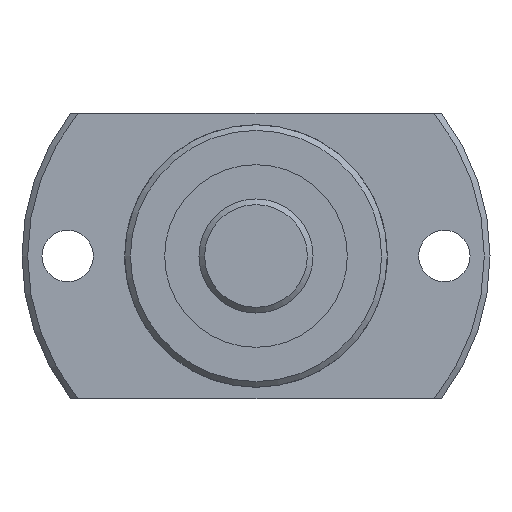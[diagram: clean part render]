
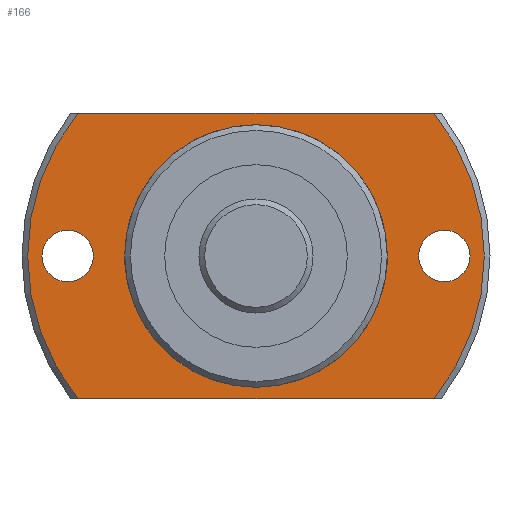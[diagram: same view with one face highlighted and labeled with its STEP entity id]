
A CAD part, left-side view. The second image highlights one B-rep face of the part: STEP entity #166.
In plain terms, the highlighted planar face has unit normal (-1, 0, 0).
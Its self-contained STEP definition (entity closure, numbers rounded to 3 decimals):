
#166 = ADVANCED_FACE( '', ( #365, #366, #367, #368 ), #369, .F. );
#365 = FACE_OUTER_BOUND( '', #629, .T. );
#366 = FACE_BOUND( '', #630, .T. );
#367 = FACE_BOUND( '', #631, .T. );
#368 = FACE_BOUND( '', #632, .T. );
#369 = PLANE( '', #633 );
#629 = EDGE_LOOP( '', ( #957, #958, #959, #960 ) );
#630 = EDGE_LOOP( '', ( #961 ) );
#631 = EDGE_LOOP( '', ( #962 ) );
#632 = EDGE_LOOP( '', ( #963 ) );
#633 = AXIS2_PLACEMENT_3D( '', #964, #965, #966 );
#957 = ORIENTED_EDGE( '', *, *, #1490, .F. );
#958 = ORIENTED_EDGE( '', *, *, #1491, .T. );
#959 = ORIENTED_EDGE( '', *, *, #1457, .F. );
#960 = ORIENTED_EDGE( '', *, *, #1492, .T. );
#961 = ORIENTED_EDGE( '', *, *, #1493, .T. );
#962 = ORIENTED_EDGE( '', *, *, #1494, .T. );
#963 = ORIENTED_EDGE( '', *, *, #1477, .T. );
#964 = CARTESIAN_POINT( '', ( 19., 11.3, 0. ) );
#965 = DIRECTION( '', ( 1., 0., 0. ) );
#966 = DIRECTION( '', ( 0., 0., -1. ) );
#1457 = EDGE_CURVE( '', #1709, #1710, #1711, .T. );
#1477 = EDGE_CURVE( '', #1742, #1742, #1743, .T. );
#1490 = EDGE_CURVE( '', #1764, #1765, #1766, .T. );
#1491 = EDGE_CURVE( '', #1764, #1710, #1767, .T. );
#1492 = EDGE_CURVE( '', #1709, #1765, #1768, .T. );
#1493 = EDGE_CURVE( '', #1769, #1769, #1770, .T. );
#1494 = EDGE_CURVE( '', #1771, #1771, #1772, .T. );
#1709 = VERTEX_POINT( '', #2064 );
#1710 = VERTEX_POINT( '', #2065 );
#1711 = CIRCLE( '', #2066, 20. );
#1742 = VERTEX_POINT( '', #2109 );
#1743 = CIRCLE( '', #2110, 11.3 );
#1764 = VERTEX_POINT( '', #2143 );
#1765 = VERTEX_POINT( '', #2144 );
#1766 = CIRCLE( '', #2145, 20. );
#1767 = LINE( '', #2146, #2147 );
#1768 = LINE( '', #2148, #2149 );
#1769 = VERTEX_POINT( '', #2150 );
#1770 = CIRCLE( '', #2151, 2.25 );
#1771 = VERTEX_POINT( '', #2152 );
#1772 = CIRCLE( '', #2153, 2.25 );
#2064 = CARTESIAN_POINT( '', ( 19., -15.612, 12.5 ) );
#2065 = CARTESIAN_POINT( '', ( 19., -15.612, -12.5 ) );
#2066 = AXIS2_PLACEMENT_3D( '', #2483, #2484, #2485 );
#2109 = CARTESIAN_POINT( '', ( 19., 0., -11.3 ) );
#2110 = AXIS2_PLACEMENT_3D( '', #2510, #2511, #2512 );
#2143 = CARTESIAN_POINT( '', ( 19., 15.612, -12.5 ) );
#2144 = CARTESIAN_POINT( '', ( 19., 15.612, 12.5 ) );
#2145 = AXIS2_PLACEMENT_3D( '', #2525, #2526, #2527 );
#2146 = CARTESIAN_POINT( '', ( 19., 11.3, -12.5 ) );
#2147 = VECTOR( '', #2528, 1000. );
#2148 = CARTESIAN_POINT( '', ( 19., 11.3, 12.5 ) );
#2149 = VECTOR( '', #2529, 1000. );
#2150 = CARTESIAN_POINT( '', ( 19., 16.5, -2.25 ) );
#2151 = AXIS2_PLACEMENT_3D( '', #2530, #2531, #2532 );
#2152 = CARTESIAN_POINT( '', ( 19., -16.5, -2.25 ) );
#2153 = AXIS2_PLACEMENT_3D( '', #2533, #2534, #2535 );
#2483 = CARTESIAN_POINT( '', ( 19., 0., 0. ) );
#2484 = DIRECTION( '', ( 1., 0., 0. ) );
#2485 = DIRECTION( '', ( 0., 0., -1. ) );
#2510 = CARTESIAN_POINT( '', ( 19., 0., 0. ) );
#2511 = DIRECTION( '', ( 1., 0., 0. ) );
#2512 = DIRECTION( '', ( 0., 0., -1. ) );
#2525 = CARTESIAN_POINT( '', ( 19., 0., 0. ) );
#2526 = DIRECTION( '', ( 1., 0., 0. ) );
#2527 = DIRECTION( '', ( 0., 0., -1. ) );
#2528 = DIRECTION( '', ( 0., -1., 0. ) );
#2529 = DIRECTION( '', ( 0., 1., 0. ) );
#2530 = CARTESIAN_POINT( '', ( 19., 16.5, 0. ) );
#2531 = DIRECTION( '', ( 1., 0., 0. ) );
#2532 = DIRECTION( '', ( 0., 0., -1. ) );
#2533 = CARTESIAN_POINT( '', ( 19., -16.5, 0. ) );
#2534 = DIRECTION( '', ( 1., 0., 0. ) );
#2535 = DIRECTION( '', ( 0., 0., -1. ) );
